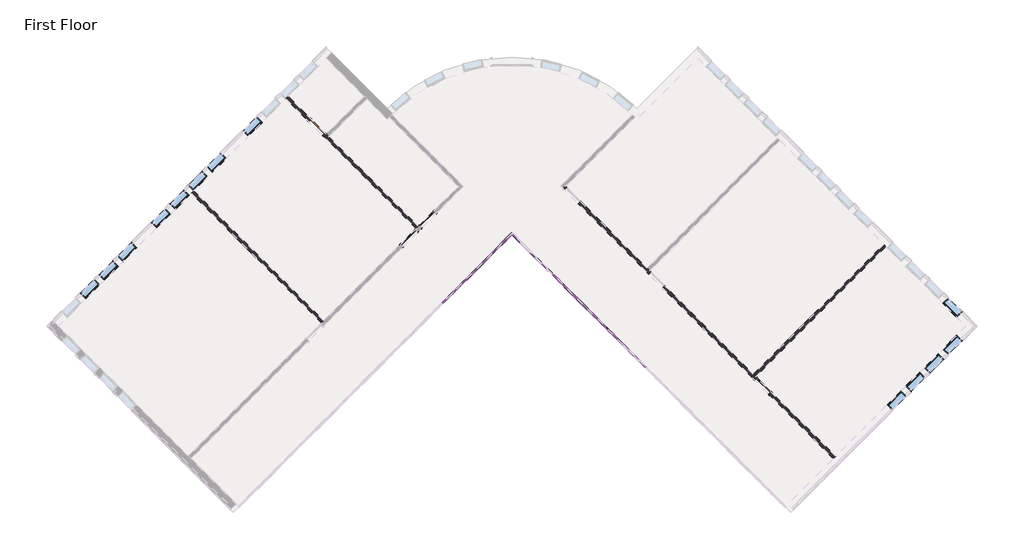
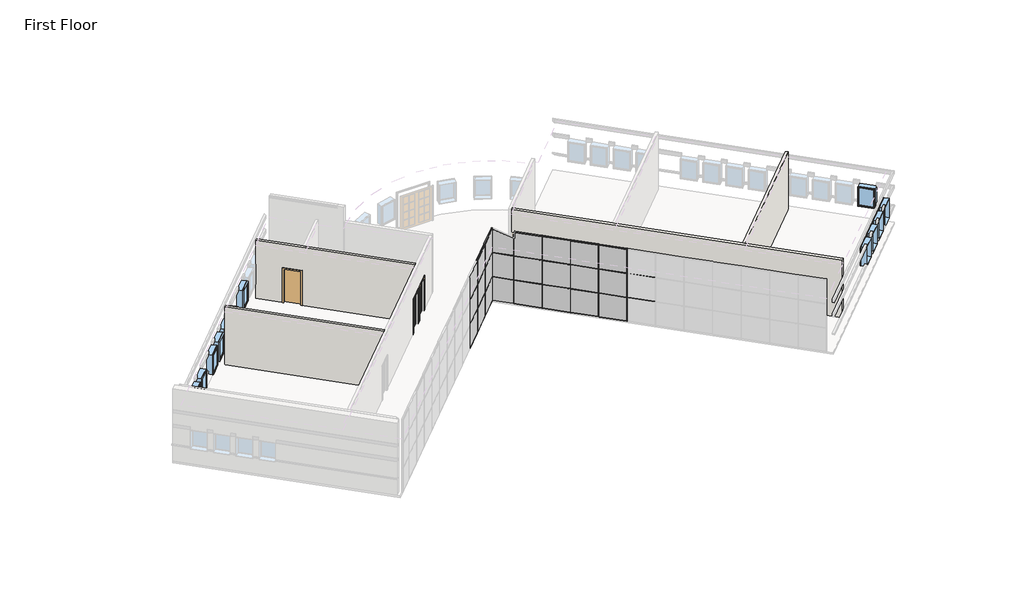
# One storey, part 3 of 5: 46 members, 24 plates, 13 windows, 4 doors, 4 walls.
"""IFC4 building model written with IfcOpenShell, lengths in millimetres."""

from ifc_helpers import new_model, si_unit, origin, origin_with_axes, place, context, project, spatial, polyline, outline, extrude, faceted_brep, transform, mapped, element, save
from components import door_f9494b7c, door_b81abb0e, door_5f5b55da, member_6121af53, member_155beb68, member_f5090587, member_42be4715, member_b8a5b5c0, member_a3731390, member_b87a50da, system_panel_glazed_f8555db4, system_panel_glazed_da345f4e, system_panel_glazed_d4009c89, system_panel_glazed_f1e4c5b0, system_panel_glazed_b4114ee2, system_panel_glazed_dc791129, system_panel_solid_99f695d0, system_panel_solid_2f1037e2, system_panel_solid_f673cd79, system_panel_solid_3576f13f, window_15c49d37, window_0e2fc6ce

model = new_model("IFC4")

# Units and contexts
model_context = context("Model", 3, world=origin())
ifc_project = project(units=[si_unit("LENGTHUNIT", "METRE", prefix="MILLI")], contexts=[model_context])

# Site, building, storey
site = spatial("IfcSite", under=ifc_project)
building = spatial("IfcBuilding", under=site)
storey = spatial("IfcBuildingStorey", under=building, Name="First Floor", Elevation=0.0)

# Doors
placement = place(None, origin())
door_shape = door_f9494b7c(model_context)
element("IfcDoor", 1, ObjectType="Single-Flush : 36\" x 84\"", at=placement, inside=storey, context=model_context, shape_type="MappedRepresentation", body=[
    mapped(door_shape, transform((-11920.1265343, 7875.9588464, 0.0), x_axis=(0.7071067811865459, -0.7071067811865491, 0.0), y_axis=(0.7071067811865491, 0.7071067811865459, 0.0), z_axis=(0.0, 0.0, 1.0))),
])
door_2_shape = door_b81abb0e(model_context)
element("IfcDoor", 2, ObjectType="Single-Glass 1 : 36\" x 84\"", at=placement, inside=storey, context=model_context, shape_type="MappedRepresentation", body=[
    mapped(door_2_shape, transform((-7643.2795567, 2737.0072811, 0.0), x_axis=(0.7071067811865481, 0.7071067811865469, 0.0), y_axis=(-0.7071067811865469, 0.7071067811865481, 0.0), z_axis=(0.0, 0.0, 1.0))),
])
door_3_shape = door_5f5b55da(model_context)
element("IfcDoor", 3, ObjectType="Single-Glass 1 : 36\" x 84\"", at=placement, inside=storey, context=model_context, shape_type="MappedRepresentation", body=[
    mapped(door_3_shape, transform((-6781.1749691, 3599.1118687, 0.0), x_axis=(-0.7071067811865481, -0.7071067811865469, 0.0), y_axis=(0.7071067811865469, -0.7071067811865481, 0.0), z_axis=(0.0, 0.0, 1.0))),
])
element("IfcDoor", 4, ObjectType="Single-Glass 1 : 36\" x 84\"", at=placement, inside=storey, context=model_context, shape_type="MappedRepresentation", body=[
    mapped(door_3_shape, transform((8770.3835686, -4126.1534594, 0.0), x_axis=(-0.7071067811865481, 0.7071067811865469, 0.0), y_axis=(-0.7071067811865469, -0.7071067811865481, 0.0), z_axis=(0.0, 0.0, 1.0))),
])

# Members
member_shape = member_6121af53(model_context)
element("IfcMember", 5, ObjectType="Rectangular Mullion : 1.5\" x 2.5\" Rectangular", at=placement, inside=storey, context=model_context, shape_type="MappedRepresentation", body=[
    mapped(member_shape, transform((-5009.8194492, 810.7423431, 4572.0), x_axis=(0.0, 0.0, 1.0), y_axis=(-0.7071067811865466, 0.7071067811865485, 0.0), z_axis=(-0.7071067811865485, -0.7071067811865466, 0.0))),
])
element("IfcMember", 6, ObjectType="Rectangular Mullion : 1.5\" x 2.5\" Rectangular", at=placement, inside=storey, context=model_context, shape_type="MappedRepresentation", body=[
    mapped(member_shape, transform((1206.7628506, -1122.2577869, 4572.0), x_axis=(0.0, 0.0, 1.0), y_axis=(0.70710678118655, 0.707106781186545, 0.0), z_axis=(-0.707106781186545, 0.70710678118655, 0.0))),
])
element("IfcMember", 7, ObjectType="Rectangular Mullion : 1.5\" x 2.5\" Rectangular", at=placement, inside=storey, context=model_context, shape_type="MappedRepresentation", body=[
    mapped(member_shape, transform((129.1321161, -44.6270524, 4572.0), x_axis=(0.0, 0.0, 1.0), y_axis=(0.7071067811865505, 0.7071067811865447, 0.0), z_axis=(-0.7071067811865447, 0.7071067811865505, 0.0))),
])
element("IfcMember", 8, ObjectType="Rectangular Mullion : 1.5\" x 2.5\" Rectangular", at=placement, inside=storey, context=model_context, shape_type="MappedRepresentation", body=[
    mapped(member_shape, transform((-948.4986184, 1033.0036821, 4572.0), x_axis=(0.0, 0.0, 1.0), y_axis=(0.7071067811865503, 0.7071067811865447, 0.0), z_axis=(-0.7071067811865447, 0.7071067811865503, 0.0))),
])
member_2_shape = member_155beb68(model_context)
element("IfcMember", 9, ObjectType="Rectangular Mullion : 1.5\" x 2.5\" Rectangular", at=placement, inside=storey, context=model_context, shape_type="MappedRepresentation", body=[
    mapped(member_2_shape, transform((-3945.6590988, 1874.9026935, 1524.0), x_axis=(-0.7071067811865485, -0.7071067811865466, 0.0), y_axis=(-0.7071067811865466, 0.7071067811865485, 0.0), z_axis=(0.0, 0.0, -1.0))),
])
element("IfcMember", 10, ObjectType="Rectangular Mullion : 1.5\" x 2.5\" Rectangular", at=placement, inside=storey, context=model_context, shape_type="MappedRepresentation", body=[
    mapped(member_2_shape, transform((-5023.2898334, 797.271959, 1524.0), x_axis=(-0.7071067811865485, -0.7071067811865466, 0.0), y_axis=(-0.7071067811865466, 0.7071067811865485, 0.0), z_axis=(0.0, 0.0, -1.0))),
])
element("IfcMember", 11, ObjectType="Rectangular Mullion : 1.5\" x 2.5\" Rectangular", at=placement, inside=storey, context=model_context, shape_type="MappedRepresentation", body=[
    mapped(member_2_shape, transform((2270.923201, -2186.4181373, 1524.0), x_axis=(-0.7071067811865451, 0.70710678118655, 0.0), y_axis=(0.70710678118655, 0.7071067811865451, 0.0), z_axis=(0.0, 0.0, -1.0))),
])
element("IfcMember", 12, ObjectType="Rectangular Mullion : 1.5\" x 2.5\" Rectangular", at=placement, inside=storey, context=model_context, shape_type="MappedRepresentation", body=[
    mapped(member_2_shape, transform((1193.2924664, -1108.7874027, 1524.0), x_axis=(-0.7071067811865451, 0.70710678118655, 0.0), y_axis=(0.70710678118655, 0.7071067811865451, 0.0), z_axis=(0.0, 0.0, -1.0))),
])
element("IfcMember", 13, ObjectType="Rectangular Mullion : 1.5\" x 2.5\" Rectangular", at=placement, inside=storey, context=model_context, shape_type="MappedRepresentation", body=[
    mapped(member_2_shape, transform((115.6617319, -31.1566682, 1524.0), x_axis=(-0.7071067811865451, 0.70710678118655, 0.0), y_axis=(0.70710678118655, 0.7071067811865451, 0.0), z_axis=(0.0, 0.0, -1.0))),
])
element("IfcMember", 14, ObjectType="Rectangular Mullion : 1.5\" x 2.5\" Rectangular", at=placement, inside=storey, context=model_context, shape_type="MappedRepresentation", body=[
    mapped(member_2_shape, transform((-961.9690026, 1046.4740663, 1524.0), x_axis=(-0.7071067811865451, 0.70710678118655, 0.0), y_axis=(0.70710678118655, 0.7071067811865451, 0.0), z_axis=(0.0, 0.0, -1.0))),
])
element("IfcMember", 15, ObjectType="Rectangular Mullion : 1.5\" x 2.5\" Rectangular", at=placement, inside=storey, context=model_context, shape_type="MappedRepresentation", body=[
    mapped(member_2_shape, transform((-3945.6590988, 1874.9026935, 3048.0), x_axis=(-0.7071067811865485, -0.7071067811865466, 0.0), y_axis=(-0.7071067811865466, 0.7071067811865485, 0.0), z_axis=(0.0, 0.0, -1.0))),
])
element("IfcMember", 16, ObjectType="Rectangular Mullion : 1.5\" x 2.5\" Rectangular", at=placement, inside=storey, context=model_context, shape_type="MappedRepresentation", body=[
    mapped(member_2_shape, transform((-5023.2898334, 797.271959, 3048.0), x_axis=(-0.7071067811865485, -0.7071067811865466, 0.0), y_axis=(-0.7071067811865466, 0.7071067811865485, 0.0), z_axis=(0.0, 0.0, -1.0))),
])
element("IfcMember", 17, ObjectType="Rectangular Mullion : 1.5\" x 2.5\" Rectangular", at=placement, inside=storey, context=model_context, shape_type="MappedRepresentation", body=[
    mapped(member_2_shape, transform((2270.923201, -2186.4181373, 3048.0), x_axis=(-0.7071067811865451, 0.70710678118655, 0.0), y_axis=(0.70710678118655, 0.7071067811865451, 0.0), z_axis=(0.0, 0.0, -1.0))),
])
element("IfcMember", 18, ObjectType="Rectangular Mullion : 1.5\" x 2.5\" Rectangular", at=placement, inside=storey, context=model_context, shape_type="MappedRepresentation", body=[
    mapped(member_2_shape, transform((1193.2924664, -1108.7874027, 3048.0), x_axis=(-0.7071067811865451, 0.70710678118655, 0.0), y_axis=(0.70710678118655, 0.7071067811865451, 0.0), z_axis=(0.0, 0.0, -1.0))),
])
element("IfcMember", 19, ObjectType="Rectangular Mullion : 1.5\" x 2.5\" Rectangular", at=placement, inside=storey, context=model_context, shape_type="MappedRepresentation", body=[
    mapped(member_2_shape, transform((115.6617319, -31.1566682, 3048.0), x_axis=(-0.7071067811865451, 0.70710678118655, 0.0), y_axis=(0.70710678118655, 0.7071067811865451, 0.0), z_axis=(0.0, 0.0, -1.0))),
])
element("IfcMember", 20, ObjectType="Rectangular Mullion : 1.5\" x 2.5\" Rectangular", at=placement, inside=storey, context=model_context, shape_type="MappedRepresentation", body=[
    mapped(member_2_shape, transform((-961.9690026, 1046.4740663, 3048.0), x_axis=(-0.7071067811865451, 0.70710678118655, 0.0), y_axis=(0.70710678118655, 0.7071067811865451, 0.0), z_axis=(0.0, 0.0, -1.0))),
])
element("IfcMember", 21, ObjectType="Rectangular Mullion : 1.5\" x 2.5\" Rectangular", at=placement, inside=storey, context=model_context, shape_type="MappedRepresentation", body=[
    mapped(member_2_shape, transform((-3945.6590988, 1874.9026935, 0.0), x_axis=(-0.7071067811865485, -0.7071067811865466, 0.0), y_axis=(-0.7071067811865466, 0.7071067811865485, 0.0), z_axis=(0.0, 0.0, -1.0))),
])
element("IfcMember", 22, ObjectType="Rectangular Mullion : 1.5\" x 2.5\" Rectangular", at=placement, inside=storey, context=model_context, shape_type="MappedRepresentation", body=[
    mapped(member_2_shape, transform((-5023.2898334, 797.271959, 0.0), x_axis=(-0.7071067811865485, -0.7071067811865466, 0.0), y_axis=(-0.7071067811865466, 0.7071067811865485, 0.0), z_axis=(0.0, 0.0, -1.0))),
])
element("IfcMember", 23, ObjectType="Rectangular Mullion : 1.5\" x 2.5\" Rectangular", at=placement, inside=storey, context=model_context, shape_type="MappedRepresentation", body=[
    mapped(member_2_shape, transform((-961.9690026, 1046.4740663, 0.0), x_axis=(-0.7071067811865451, 0.70710678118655, 0.0), y_axis=(0.70710678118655, 0.7071067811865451, 0.0), z_axis=(0.0, 0.0, -1.0))),
])
element("IfcMember", 24, ObjectType="Rectangular Mullion : 1.5\" x 2.5\" Rectangular", at=placement, inside=storey, context=model_context, shape_type="MappedRepresentation", body=[
    mapped(member_2_shape, transform((115.6617319, -31.1566682, 0.0), x_axis=(-0.7071067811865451, 0.70710678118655, 0.0), y_axis=(0.70710678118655, 0.7071067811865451, 0.0), z_axis=(0.0, 0.0, -1.0))),
])
element("IfcMember", 25, ObjectType="Rectangular Mullion : 1.5\" x 2.5\" Rectangular", at=placement, inside=storey, context=model_context, shape_type="MappedRepresentation", body=[
    mapped(member_2_shape, transform((1193.2924664, -1108.7874027, 0.0), x_axis=(-0.7071067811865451, 0.70710678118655, 0.0), y_axis=(0.70710678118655, 0.7071067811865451, 0.0), z_axis=(0.0, 0.0, -1.0))),
])
element("IfcMember", 26, ObjectType="Rectangular Mullion : 1.5\" x 2.5\" Rectangular", at=placement, inside=storey, context=model_context, shape_type="MappedRepresentation", body=[
    mapped(member_2_shape, transform((2270.923201, -2186.4181373, 0.0), x_axis=(-0.7071067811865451, 0.70710678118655, 0.0), y_axis=(0.70710678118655, 0.7071067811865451, 0.0), z_axis=(0.0, 0.0, -1.0))),
])
member_3_shape = member_f5090587(model_context)
element("IfcMember", 27, ObjectType="Rectangular Mullion : 1.5\" x 2.5\" Rectangular", at=placement, inside=storey, context=model_context, shape_type="MappedRepresentation", body=[
    mapped(member_3_shape, transform((-3932.1887147, 1888.3730777, 3048.0), x_axis=(0.0, 0.0, 1.0), y_axis=(-0.7071067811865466, 0.7071067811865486, 0.0), z_axis=(-0.7071067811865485, -0.7071067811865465, 0.0))),
])
element("IfcMember", 28, ObjectType="Rectangular Mullion : 1.5\" x 2.5\" Rectangular", at=placement, inside=storey, context=model_context, shape_type="MappedRepresentation", body=[
    mapped(member_3_shape, transform((-3932.1887147, 1888.3730777, 1524.0), x_axis=(0.0, 0.0, 1.0), y_axis=(-0.7071067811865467, 0.7071067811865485, 0.0), z_axis=(-0.7071067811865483, -0.7071067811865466, 0.0))),
])
member_4_shape = member_42be4715(model_context)
element("IfcMember", 29, ObjectType="Rectangular Mullion : 1.5\" x 2.5\" Rectangular", at=placement, inside=storey, context=model_context, shape_type="MappedRepresentation", body=[
    mapped(member_4_shape, transform((-5009.8194492, 810.7423431, 3048.0), x_axis=(0.0, 0.0, 1.0), y_axis=(-0.7071067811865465, 0.7071067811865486, 0.0), z_axis=(-0.7071067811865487, -0.7071067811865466, 0.0))),
])
element("IfcMember", 30, ObjectType="Rectangular Mullion : 1.5\" x 2.5\" Rectangular", at=placement, inside=storey, context=model_context, shape_type="MappedRepresentation", body=[
    mapped(member_4_shape, transform((-5009.8194492, 810.7423431, 1524.0), x_axis=(0.0, 0.0, 1.0), y_axis=(-0.7071067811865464, 0.7071067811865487, 0.0), z_axis=(-0.7071067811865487, -0.7071067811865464, 0.0))),
])
element("IfcMember", 31, ObjectType="Rectangular Mullion : 1.5\" x 2.5\" Rectangular", at=placement, inside=storey, context=model_context, shape_type="MappedRepresentation", body=[
    mapped(member_4_shape, transform((-948.4986184, 1033.0036821, 3048.0), x_axis=(0.0, 0.0, 1.0), y_axis=(0.7071067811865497, 0.7071067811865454, 0.0), z_axis=(-0.7071067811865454, 0.7071067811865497, 0.0))),
])
element("IfcMember", 32, ObjectType="Rectangular Mullion : 1.5\" x 2.5\" Rectangular", at=placement, inside=storey, context=model_context, shape_type="MappedRepresentation", body=[
    mapped(member_4_shape, transform((129.1321161, -44.6270524, 3048.0), x_axis=(0.0, 0.0, 1.0), y_axis=(0.7071067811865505, 0.7071067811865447, 0.0), z_axis=(-0.7071067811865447, 0.7071067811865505, 0.0))),
])
element("IfcMember", 33, ObjectType="Rectangular Mullion : 1.5\" x 2.5\" Rectangular", at=placement, inside=storey, context=model_context, shape_type="MappedRepresentation", body=[
    mapped(member_4_shape, transform((1206.7628506, -1122.2577869, 3048.0), x_axis=(0.0, 0.0, 1.0), y_axis=(0.70710678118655, 0.707106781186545, 0.0), z_axis=(-0.707106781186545, 0.70710678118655, 0.0))),
])
element("IfcMember", 34, ObjectType="Rectangular Mullion : 1.5\" x 2.5\" Rectangular", at=placement, inside=storey, context=model_context, shape_type="MappedRepresentation", body=[
    mapped(member_4_shape, transform((2284.3935852, -2199.8885214, 3048.0), x_axis=(0.0, 0.0, 1.0), y_axis=(0.7071067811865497, 0.7071067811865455, 0.0), z_axis=(-0.7071067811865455, 0.7071067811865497, 0.0))),
])
element("IfcMember", 35, ObjectType="Rectangular Mullion : 1.5\" x 2.5\" Rectangular", at=placement, inside=storey, context=model_context, shape_type="MappedRepresentation", body=[
    mapped(member_4_shape, transform((-948.4986184, 1033.0036821, 1524.0), x_axis=(0.0, 0.0, 1.0), y_axis=(0.7071067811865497, 0.7071067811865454, 0.0), z_axis=(-0.7071067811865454, 0.7071067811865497, 0.0))),
])
element("IfcMember", 36, ObjectType="Rectangular Mullion : 1.5\" x 2.5\" Rectangular", at=placement, inside=storey, context=model_context, shape_type="MappedRepresentation", body=[
    mapped(member_4_shape, transform((129.1321161, -44.6270524, 1524.0), x_axis=(0.0, 0.0, 1.0), y_axis=(0.7071067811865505, 0.7071067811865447, 0.0), z_axis=(-0.7071067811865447, 0.7071067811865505, 0.0))),
])
element("IfcMember", 37, ObjectType="Rectangular Mullion : 1.5\" x 2.5\" Rectangular", at=placement, inside=storey, context=model_context, shape_type="MappedRepresentation", body=[
    mapped(member_4_shape, transform((1206.7628506, -1122.2577869, 1524.0), x_axis=(0.0, 0.0, 1.0), y_axis=(0.7071067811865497, 0.7071067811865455, 0.0), z_axis=(-0.7071067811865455, 0.7071067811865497, 0.0))),
])
element("IfcMember", 38, ObjectType="Rectangular Mullion : 1.5\" x 2.5\" Rectangular", at=placement, inside=storey, context=model_context, shape_type="MappedRepresentation", body=[
    mapped(member_4_shape, transform((2284.3935852, -2199.8885214, 1524.0), x_axis=(0.0, 0.0, 1.0), y_axis=(0.70710678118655, 0.707106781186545, 0.0), z_axis=(-0.707106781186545, 0.70710678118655, 0.0))),
])
member_5_shape = member_b8a5b5c0(model_context)
element("IfcMember", 39, ObjectType="Rectangular Mullion : 1.5\" x 2.5\" Rectangular", at=placement, inside=storey, context=model_context, shape_type="MappedRepresentation", body=[
    mapped(member_5_shape, transform((-2894.9691327, 2925.5926597, 0.0), x_axis=(0.0, 0.0, -1.0), y_axis=(-0.7071067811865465, 0.7071067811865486, 0.0), z_axis=(0.7071067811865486, 0.7071067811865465, 0.0))),
])
element("IfcMember", 40, ObjectType="Rectangular Mullion : 1.5\" x 2.5\" Rectangular", at=placement, inside=storey, context=model_context, shape_type="MappedRepresentation", body=[
    mapped(member_shape, transform((-3959.129483, 1861.4323093, 0.0), x_axis=(0.0, 0.0, -1.0), y_axis=(-0.7071067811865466, 0.7071067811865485, 0.0), z_axis=(0.7071067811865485, 0.7071067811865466, 0.0))),
])
element("IfcMember", 41, ObjectType="Rectangular Mullion : 1.5\" x 2.5\" Rectangular", at=placement, inside=storey, context=model_context, shape_type="MappedRepresentation", body=[
    mapped(member_shape, transform((-5036.7602175, 783.8015748, 0.0), x_axis=(0.0, 0.0, -1.0), y_axis=(-0.7071067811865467, 0.7071067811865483, 0.0), z_axis=(0.7071067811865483, 0.7071067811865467, 0.0))),
])
element("IfcMember", 42, ObjectType="Rectangular Mullion : 1.5\" x 2.5\" Rectangular", at=placement, inside=storey, context=model_context, shape_type="MappedRepresentation", body=[
    mapped(member_shape, transform((-975.4393868, 1059.9444505, 0.0), x_axis=(0.0, 0.0, -1.0), y_axis=(0.707106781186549, 0.7071067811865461, 0.0), z_axis=(0.707106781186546, -0.7071067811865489, 0.0))),
])
element("IfcMember", 43, ObjectType="Rectangular Mullion : 1.5\" x 2.5\" Rectangular", at=placement, inside=storey, context=model_context, shape_type="MappedRepresentation", body=[
    mapped(member_shape, transform((102.1913477, -17.686284, 0.0), x_axis=(0.0, 0.0, -1.0), y_axis=(0.7071067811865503, 0.7071067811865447, 0.0), z_axis=(0.7071067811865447, -0.7071067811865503, 0.0))),
])
element("IfcMember", 44, ObjectType="Rectangular Mullion : 1.5\" x 2.5\" Rectangular", at=placement, inside=storey, context=model_context, shape_type="MappedRepresentation", body=[
    mapped(member_shape, transform((1179.8220823, -1095.3170186, 0.0), x_axis=(0.0, 0.0, -1.0), y_axis=(0.7071067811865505, 0.7071067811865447, 0.0), z_axis=(0.7071067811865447, -0.7071067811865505, 0.0))),
])
element("IfcMember", 45, ObjectType="Rectangular Mullion : 1.5\" x 2.5\" Rectangular", at=placement, inside=storey, context=model_context, shape_type="MappedRepresentation", body=[
    mapped(member_shape, transform((2257.4528168, -2172.9477531, 0.0), x_axis=(0.0, 0.0, -1.0), y_axis=(0.7071067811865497, 0.7071067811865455, 0.0), z_axis=(0.7071067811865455, -0.7071067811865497, 0.0))),
])
element("IfcMember", 46, ObjectType="Rectangular Mullion : 1.5\" x 2.5\" Rectangular", at=placement, inside=storey, context=model_context, shape_type="MappedRepresentation", body=[
    mapped(member_5_shape, transform((-3932.1887147, 1888.3730777, 4572.0), x_axis=(0.0, 0.0, 1.0), y_axis=(-0.7071067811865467, 0.7071067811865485, 0.0), z_axis=(-0.7071067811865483, -0.7071067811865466, 0.0))),
])
member_6_shape = member_a3731390(model_context)
element("IfcMember", 47, ObjectType="Rectangular Mullion : 1.5\" x 2.5\" Rectangular", at=placement, inside=storey, context=model_context, shape_type="MappedRepresentation", body=[
    mapped(member_6_shape, transform((-2841.0875959, 2925.5926597, 3048.0), x_axis=(0.0, 0.0, 1.0), y_axis=(0.7071067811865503, 0.7071067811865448, 0.0), z_axis=(-0.7071067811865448, 0.7071067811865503, 0.0))),
])
member_7_shape = member_b87a50da(model_context)
element("IfcMember", 48, ObjectType="Rectangular Mullion : 1.5\" x 2.5\" Rectangular", at=placement, inside=storey, context=model_context, shape_type="MappedRepresentation", body=[
    mapped(member_7_shape, transform((-2868.0283643, 2952.533428, 1524.0), x_axis=(0.7071067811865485, 0.7071067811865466, 0.0), y_axis=(-0.7071067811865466, 0.7071067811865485, 0.0), z_axis=(0.0, 0.0, 1.0))),
])
element("IfcMember", 49, ObjectType="Rectangular Mullion : 1.5\" x 2.5\" Rectangular", at=placement, inside=storey, context=model_context, shape_type="MappedRepresentation", body=[
    mapped(member_7_shape, transform((-2868.0283643, 2952.533428, 3048.0), x_axis=(0.7071067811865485, 0.7071067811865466, 0.0), y_axis=(-0.7071067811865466, 0.7071067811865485, 0.0), z_axis=(0.0, 0.0, 1.0))),
])
element("IfcMember", 50, ObjectType="Rectangular Mullion : 1.5\" x 2.5\" Rectangular", at=placement, inside=storey, context=model_context, shape_type="MappedRepresentation", body=[
    mapped(member_7_shape, transform((-2868.0283643, 2952.533428, 4572.0), x_axis=(0.7071067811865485, 0.7071067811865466, 0.0), y_axis=(-0.7071067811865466, 0.7071067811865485, 0.0), z_axis=(0.0, 0.0, 1.0))),
])

# Plates
system_panel_glazed_shape = system_panel_glazed_f8555db4(model_context)
element("IfcPlate", 51, ObjectType="System Panel : Glazed", at=placement, inside=storey, context=model_context, shape_type="MappedRepresentation", body=[
    mapped(system_panel_glazed_shape, transform((-3413.5789237, 2406.9828687, 38.1), x_axis=(-0.7071067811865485, -0.7071067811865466, 0.0), y_axis=(0.7071067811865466, -0.7071067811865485, 0.0), z_axis=(0.0, 0.0, 1.0))),
])
system_panel_glazed_2_shape = system_panel_glazed_da345f4e(model_context)
element("IfcPlate", 52, ObjectType="System Panel : Glazed", at=placement, inside=storey, context=model_context, shape_type="MappedRepresentation", body=[
    mapped(system_panel_glazed_2_shape, transform((1732.1078337, -1647.60277, 38.1), x_axis=(-0.7071067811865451, 0.70710678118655, 0.0), y_axis=(-0.70710678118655, -0.7071067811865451, 0.0), z_axis=(0.0, 0.0, 1.0))),
])
element("IfcPlate", 53, ObjectType="System Panel : Glazed", at=placement, inside=storey, context=model_context, shape_type="MappedRepresentation", body=[
    mapped(system_panel_glazed_2_shape, transform((654.4770992, -569.9720355, 38.1), x_axis=(-0.7071067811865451, 0.70710678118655, 0.0), y_axis=(-0.70710678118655, -0.7071067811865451, 0.0), z_axis=(0.0, 0.0, 1.0))),
])
element("IfcPlate", 54, ObjectType="System Panel : Glazed", at=placement, inside=storey, context=model_context, shape_type="MappedRepresentation", body=[
    mapped(system_panel_glazed_2_shape, transform((-423.1536353, 507.6586991, 38.1), x_axis=(-0.7071067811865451, 0.70710678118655, 0.0), y_axis=(-0.70710678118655, -0.7071067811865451, 0.0), z_axis=(0.0, 0.0, 1.0))),
])
element("IfcPlate", 55, ObjectType="System Panel : Glazed", at=placement, inside=storey, context=model_context, shape_type="MappedRepresentation", body=[
    mapped(system_panel_glazed_2_shape, transform((-4484.4744661, 1336.0873262, 38.1), x_axis=(-0.7071067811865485, -0.7071067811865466, 0.0), y_axis=(0.7071067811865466, -0.7071067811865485, 0.0), z_axis=(0.0, 0.0, 1.0))),
])
element("IfcPlate", 56, ObjectType="System Panel : Glazed", at=placement, inside=storey, context=model_context, shape_type="MappedRepresentation", body=[
    mapped(system_panel_glazed_2_shape, transform((-5562.1052006, 258.4565917, 38.1), x_axis=(-0.7071067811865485, -0.7071067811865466, 0.0), y_axis=(0.7071067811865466, -0.7071067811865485, 0.0), z_axis=(0.0, 0.0, 1.0))),
])
element("IfcPlate", 57, ObjectType="System Panel : Glazed", at=placement, inside=storey, context=model_context, shape_type="MappedRepresentation", body=[
    mapped(system_panel_glazed_2_shape, transform((-1500.7843699, 1585.2894336, 38.1), x_axis=(-0.7071067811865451, 0.70710678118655, 0.0), y_axis=(-0.70710678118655, -0.7071067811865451, 0.0), z_axis=(0.0, 0.0, 1.0))),
])
system_panel_glazed_3_shape = system_panel_glazed_d4009c89(model_context)
element("IfcPlate", 58, ObjectType="System Panel : Glazed", at=placement, inside=storey, context=model_context, shape_type="MappedRepresentation", body=[
    mapped(system_panel_glazed_3_shape, transform((-3413.5789237, 2406.9828687, 1543.05), x_axis=(-0.7071067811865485, -0.7071067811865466, 0.0), y_axis=(0.7071067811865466, -0.7071067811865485, 0.0), z_axis=(0.0, 0.0, 1.0))),
])
system_panel_glazed_4_shape = system_panel_glazed_f1e4c5b0(model_context)
element("IfcPlate", 59, ObjectType="System Panel : Glazed", at=placement, inside=storey, context=model_context, shape_type="MappedRepresentation", body=[
    mapped(system_panel_glazed_4_shape, transform((1732.1078337, -1647.60277, 1543.05), x_axis=(-0.7071067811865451, 0.70710678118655, 0.0), y_axis=(-0.70710678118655, -0.7071067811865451, 0.0), z_axis=(0.0, 0.0, 1.0))),
])
element("IfcPlate", 60, ObjectType="System Panel : Glazed", at=placement, inside=storey, context=model_context, shape_type="MappedRepresentation", body=[
    mapped(system_panel_glazed_4_shape, transform((654.4770992, -569.9720355, 1543.05), x_axis=(-0.7071067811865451, 0.70710678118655, 0.0), y_axis=(-0.70710678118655, -0.7071067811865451, 0.0), z_axis=(0.0, 0.0, 1.0))),
])
element("IfcPlate", 61, ObjectType="System Panel : Glazed", at=placement, inside=storey, context=model_context, shape_type="MappedRepresentation", body=[
    mapped(system_panel_glazed_4_shape, transform((-423.1536353, 507.6586991, 1543.05), x_axis=(-0.7071067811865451, 0.70710678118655, 0.0), y_axis=(-0.70710678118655, -0.7071067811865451, 0.0), z_axis=(0.0, 0.0, 1.0))),
])
element("IfcPlate", 62, ObjectType="System Panel : Glazed", at=placement, inside=storey, context=model_context, shape_type="MappedRepresentation", body=[
    mapped(system_panel_glazed_4_shape, transform((-4484.4744661, 1336.0873262, 1543.05), x_axis=(-0.7071067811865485, -0.7071067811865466, 0.0), y_axis=(0.7071067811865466, -0.7071067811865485, 0.0), z_axis=(0.0, 0.0, 1.0))),
])
element("IfcPlate", 63, ObjectType="System Panel : Glazed", at=placement, inside=storey, context=model_context, shape_type="MappedRepresentation", body=[
    mapped(system_panel_glazed_4_shape, transform((-5562.1052006, 258.4565917, 1543.05), x_axis=(-0.7071067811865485, -0.7071067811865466, 0.0), y_axis=(0.7071067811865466, -0.7071067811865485, 0.0), z_axis=(0.0, 0.0, 1.0))),
])
element("IfcPlate", 64, ObjectType="System Panel : Glazed", at=placement, inside=storey, context=model_context, shape_type="MappedRepresentation", body=[
    mapped(system_panel_glazed_4_shape, transform((-1500.7843699, 1585.2894336, 1543.05), x_axis=(-0.7071067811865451, 0.70710678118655, 0.0), y_axis=(-0.70710678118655, -0.7071067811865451, 0.0), z_axis=(0.0, 0.0, 1.0))),
])
system_panel_glazed_5_shape = system_panel_glazed_b4114ee2(model_context)
element("IfcPlate", 65, ObjectType="System Panel : Glazed", at=placement, inside=storey, context=model_context, shape_type="MappedRepresentation", body=[
    mapped(system_panel_glazed_5_shape, transform((-2447.0788586, 2531.5839223, 38.1), x_axis=(-0.7071067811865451, 0.70710678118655, 0.0), y_axis=(-0.70710678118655, -0.7071067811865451, 0.0), z_axis=(0.0, 0.0, 1.0))),
])
system_panel_glazed_6_shape = system_panel_glazed_dc791129(model_context)
element("IfcPlate", 66, ObjectType="System Panel : Glazed", at=placement, inside=storey, context=model_context, shape_type="MappedRepresentation", body=[
    mapped(system_panel_glazed_6_shape, transform((-2447.0788586, 2531.5839223, 1543.05), x_axis=(-0.7071067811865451, 0.70710678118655, 0.0), y_axis=(-0.70710678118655, -0.7071067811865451, 0.0), z_axis=(0.0, 0.0, 1.0))),
])
system_panel_solid_shape = system_panel_solid_99f695d0(model_context)
element("IfcPlate", 67, ObjectType="System Panel : Solid", at=placement, inside=storey, context=model_context, shape_type="MappedRepresentation", body=[
    mapped(system_panel_solid_shape, transform((-3413.5789237, 2406.9828687, 3067.05), x_axis=(-0.7071067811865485, -0.7071067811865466, 0.0), y_axis=(0.7071067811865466, -0.7071067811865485, 0.0), z_axis=(0.0, 0.0, 1.0))),
])
system_panel_solid_2_shape = system_panel_solid_2f1037e2(model_context)
element("IfcPlate", 68, ObjectType="System Panel : Solid", at=placement, inside=storey, context=model_context, shape_type="MappedRepresentation", body=[
    mapped(system_panel_solid_2_shape, transform((1732.1078337, -1647.60277, 3067.05), x_axis=(-0.7071067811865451, 0.70710678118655, 0.0), y_axis=(-0.70710678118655, -0.7071067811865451, 0.0), z_axis=(0.0, 0.0, 1.0))),
])
element("IfcPlate", 69, ObjectType="System Panel : Solid", at=placement, inside=storey, context=model_context, shape_type="MappedRepresentation", body=[
    mapped(system_panel_solid_2_shape, transform((654.4770992, -569.9720355, 3067.05), x_axis=(-0.7071067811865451, 0.70710678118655, 0.0), y_axis=(-0.70710678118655, -0.7071067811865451, 0.0), z_axis=(0.0, 0.0, 1.0))),
])
element("IfcPlate", 70, ObjectType="System Panel : Solid", at=placement, inside=storey, context=model_context, shape_type="MappedRepresentation", body=[
    mapped(system_panel_solid_2_shape, transform((-423.1536353, 507.6586991, 3067.05), x_axis=(-0.7071067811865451, 0.70710678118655, 0.0), y_axis=(-0.70710678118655, -0.7071067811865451, 0.0), z_axis=(0.0, 0.0, 1.0))),
])
element("IfcPlate", 71, ObjectType="System Panel : Solid", at=placement, inside=storey, context=model_context, shape_type="MappedRepresentation", body=[
    mapped(system_panel_solid_2_shape, transform((-4484.4744661, 1336.0873262, 3067.05), x_axis=(-0.7071067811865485, -0.7071067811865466, 0.0), y_axis=(0.7071067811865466, -0.7071067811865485, 0.0), z_axis=(0.0, 0.0, 1.0))),
])
element("IfcPlate", 72, ObjectType="System Panel : Solid", at=placement, inside=storey, context=model_context, shape_type="MappedRepresentation", body=[
    mapped(system_panel_solid_2_shape, transform((-5562.1052006, 258.4565917, 3067.05), x_axis=(-0.7071067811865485, -0.7071067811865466, 0.0), y_axis=(0.7071067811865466, -0.7071067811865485, 0.0), z_axis=(0.0, 0.0, 1.0))),
])
system_panel_solid_3_shape = system_panel_solid_f673cd79(model_context)
element("IfcPlate", 73, ObjectType="System Panel : Solid", at=placement, inside=storey, context=model_context, shape_type="MappedRepresentation", body=[
    mapped(system_panel_solid_3_shape, transform((-1500.7843699, 1585.2894336, 3067.05), x_axis=(-0.7071067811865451, 0.70710678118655, 0.0), y_axis=(-0.70710678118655, -0.7071067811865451, 0.0), z_axis=(0.0, 0.0, 1.0))),
])
system_panel_solid_4_shape = system_panel_solid_3576f13f(model_context)
element("IfcPlate", 74, ObjectType="System Panel : Solid", at=placement, inside=storey, context=model_context, shape_type="MappedRepresentation", body=[
    mapped(system_panel_solid_4_shape, transform((-2447.0788586, 2531.5839223, 3067.05), x_axis=(-0.7071067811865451, 0.70710678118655, 0.0), y_axis=(-0.70710678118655, -0.7071067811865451, 0.0), z_axis=(0.0, 0.0, 1.0))),
])

# Walls
element("IfcWall", 75, ObjectType="Interior - 6 1/8\" Partition (2-hr)", at=placement, inside=storey, context=model_context, shape_type="Brep", body=[
    faceted_brep([(-7322.2354004, 3168.0595749, 0.0), (-11651.8413827, 7497.6655573, 0.0), (-11541.8332452, 7607.6736948, 0.0), (-11489.0742405, 7554.9146901, 0.0), (-11379.066103, 7444.9065526, 0.0), (-7212.2272629, 3278.0677124, 0.0), (-12298.4198234, 8144.243998, 0.0), (-13359.2125777, 9205.0367523, 0.0), (-13249.2044403, 9315.0448898, 0.0), (-12188.411686, 8254.2521355, 0.0), (-7212.2272629, 3278.0677124, 3657.6), (-11379.066103, 7444.9065526, 3657.6), (-11489.0742405, 7554.9146901, 3657.6), (-13249.2044403, 9315.0448898, 3657.6), (-13359.2125777, 9205.0367523, 3657.6), (-7322.2354004, 3168.0595749, 3657.6), (-11541.8332452, 7607.6736948, 2133.6), (-12188.411686, 8254.2521355, 2133.6), (-11651.8413827, 7497.6655573, 2133.6), (-12298.4198234, 8144.243998, 2133.6)], [[[0, 1, 2, 3, 4, 5]], [[6, 7, 8, 9]], [[10, 11, 12, 13, 14, 15]], [[5, 4, 3, 2, 16, 17, 9, 8, 13, 12, 11, 10]], [[18, 1, 0, 15, 14, 7, 6, 19]], [[13, 8, 7, 14]], [[5, 10, 15, 0]], [[16, 2, 1, 18]], [[17, 16, 18, 19]], [[9, 17, 19, 6]]]),
])
element("IfcWall", 76, ObjectType="Interior - 6 1/8\" Partition (2-hr)", at=placement, inside=storey, context=model_context, shape_type="SweptSolid", body=[
    extrude(outline(polyline([(-17633.6967091, 4930.552621), (-11596.7195317, -1106.4245564), (-11706.7276692, -1216.4326939), (-17743.7048466, 4820.5444835), (-17633.6967091, 4930.552621)])), origin_with_axes(), (0.0, 0.0, 1.0), 3657.6),
])
element("IfcWall", 77, ObjectType="Interior - 6 1/8\" Partition (2-hr)", at=placement, inside=storey, context=model_context, shape_type="Brep", body=[
    faceted_brep([(-387.4681754, 5141.7064221, 0.0), (-334.7091707, 5088.9474174, 0.0), (-444.7173082, 4978.9392799, 0.0), (-497.4763129, 5031.6982846, 0.0), (311.86927, 4442.3689766, 0.0), (3415.9058564, 1338.3323903, 0.0), (3525.9139939, 1228.3242528, 0.0), (3578.6729986, 1175.5652481, 0.0), (3468.6648611, 1065.5571106, 0.0), (201.8611325, 4332.3608392, 0.0), (4225.2514393, 528.9868073, 0.0), (8339.3312748, -3585.0930281, 0.0), (8449.3394123, -3695.1011656, 0.0), (8502.098417, -3747.8601703, 0.0), (8392.0902795, -3857.8683078, 0.0), (4115.2433018, 418.9786699, 0.0), (9148.6768577, -4394.438611, 0.0), (12149.2049342, -7394.9666875, 0.0), (12039.1967967, -7504.974825, 0.0), (9038.6687202, -4504.4467485, 0.0), (12149.2049342, -7394.9666875, 3657.6), (8449.3394123, -3695.1011656, 3657.6), (8339.3312748, -3585.0930281, 3657.6), (3525.9139939, 1228.3242528, 3657.6), (3415.9058564, 1338.3323903, 3657.6), (-387.4681754, 5141.7064221, 3657.6), (-497.4763129, 5031.6982846, 3657.6), (12039.1967967, -7504.974825, 3657.6), (8502.098417, -3747.8601703, 2133.6), (4225.2514393, 528.9868073, 2133.6), (3578.6729986, 1175.5652481, 2133.6), (311.86927, 4442.3689766, 2133.6), (-334.7091707, 5088.9474174, 2133.6), (9148.6768577, -4394.438611, 2133.6), (8392.0902795, -3857.8683078, 2133.6), (9038.6687202, -4504.4467485, 2133.6), (-444.7173082, 4978.9392799, 2133.6), (201.8611325, 4332.3608392, 2133.6), (3468.6648611, 1065.5571106, 2133.6), (4115.2433018, 418.9786699, 2133.6)], [[[0, 1, 2, 3]], [[4, 5, 6, 7, 8, 9]], [[10, 11, 12, 13, 14, 15]], [[16, 17, 18, 19]], [[20, 21, 22, 23, 24, 25, 26, 27]], [[28, 13, 12, 11, 10, 29, 30, 7, 6, 5, 4, 31, 32, 1, 0, 25, 24, 23, 22, 21, 20, 17, 16, 33]], [[15, 14, 34, 35, 19, 18, 27, 26, 3, 2, 36, 37, 9, 8, 38, 39]], [[25, 0, 3, 26]], [[17, 20, 27, 18]], [[36, 2, 1, 32]], [[37, 36, 32, 31]], [[9, 37, 31, 4]], [[38, 8, 7, 30]], [[39, 38, 30, 29]], [[15, 39, 29, 10]], [[34, 14, 13, 28]], [[35, 34, 28, 33]], [[19, 35, 33, 16]]]),
])
element("IfcWall", 78, ObjectType="Interior - 6 1/8\" Partition (2-hr)", at=placement, inside=storey, context=model_context, shape_type="SweptSolid", body=[
    extrude(outline(polyline([(8339.3312748, -3585.0930281), (14376.3084522, 2451.8841493), (14486.3165897, 2341.8760118), (8449.3394123, -3695.1011656), (8339.3312748, -3585.0930281)])), origin_with_axes(), (0.0, 0.0, 1.0), 3657.6),
])

# Windows
window_shape = window_15c49d37(model_context)
element("IfcWindow", 79, ObjectType="Fixed : 36\" x 48\"", at=placement, inside=storey, context=model_context, shape_type="MappedRepresentation", body=[
    mapped(window_shape, transform((-22474.1725406, 339.2788968, 0.0), x_axis=(-0.7071067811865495, -0.7071067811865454, 0.0), y_axis=(0.7071067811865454, -0.7071067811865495, 0.0), z_axis=(0.0, 0.0, 1.0))),
])
element("IfcWindow", 80, ObjectType="Fixed : 36\" x 48\"", at=placement, inside=storey, context=model_context, shape_type="MappedRepresentation", body=[
    mapped(window_shape, transform((-21612.067953, 1201.3834844, 0.0), x_axis=(-0.7071067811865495, -0.7071067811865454, 0.0), y_axis=(0.7071067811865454, -0.7071067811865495, 0.0), z_axis=(0.0, 0.0, 1.0))),
])
element("IfcWindow", 81, ObjectType="Fixed : 36\" x 48\"", at=placement, inside=storey, context=model_context, shape_type="MappedRepresentation", body=[
    mapped(window_shape, transform((-20749.9633654, 2063.488072, 0.0), x_axis=(-0.7071067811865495, -0.7071067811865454, 0.0), y_axis=(0.7071067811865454, -0.7071067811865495, 0.0), z_axis=(0.0, 0.0, 1.0))),
])
element("IfcWindow", 82, ObjectType="Fixed : 36\" x 48\"", at=placement, inside=storey, context=model_context, shape_type="MappedRepresentation", body=[
    mapped(window_shape, transform((-19187.8702245, 3625.5812129, 0.0), x_axis=(-0.7071067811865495, -0.7071067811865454, 0.0), y_axis=(0.7071067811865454, -0.7071067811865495, 0.0), z_axis=(0.0, 0.0, 1.0))),
])
element("IfcWindow", 83, ObjectType="Fixed : 36\" x 48\"", at=placement, inside=storey, context=model_context, shape_type="MappedRepresentation", body=[
    mapped(window_shape, transform((-18325.7656368, 4487.6858006, 0.0), x_axis=(-0.7071067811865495, -0.7071067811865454, 0.0), y_axis=(0.7071067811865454, -0.7071067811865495, 0.0), z_axis=(0.0, 0.0, 1.0))),
])
element("IfcWindow", 84, ObjectType="Fixed : 36\" x 48\"", at=placement, inside=storey, context=model_context, shape_type="MappedRepresentation", body=[
    mapped(window_shape, transform((-17463.6610492, 5349.7903882, 0.0), x_axis=(-0.7071067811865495, -0.7071067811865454, 0.0), y_axis=(0.7071067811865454, -0.7071067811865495, 0.0), z_axis=(0.0, 0.0, 1.0))),
])
element("IfcWindow", 85, ObjectType="Fixed : 36\" x 48\"", at=placement, inside=storey, context=model_context, shape_type="MappedRepresentation", body=[
    mapped(window_shape, transform((-16601.5564616, 6211.8949758, 0.0), x_axis=(-0.7071067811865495, -0.7071067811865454, 0.0), y_axis=(0.7071067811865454, -0.7071067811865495, 0.0), z_axis=(0.0, 0.0, 1.0))),
])
element("IfcWindow", 86, ObjectType="Fixed : 36\" x 48\"", at=placement, inside=storey, context=model_context, shape_type="MappedRepresentation", body=[
    mapped(window_shape, transform((17600.2203996, -2193.1533294, 0.0), x_axis=(0.7071067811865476, 0.7071067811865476, 0.0), y_axis=(-0.7071067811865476, 0.7071067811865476, 0.0), z_axis=(0.0, 0.0, 1.0))),
])
element("IfcWindow", 87, ObjectType="Fixed : 36\" x 48\"", at=placement, inside=storey, context=model_context, shape_type="MappedRepresentation", body=[
    mapped(window_shape, transform((16738.115812, -3055.257917, 0.0), x_axis=(0.7071067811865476, 0.7071067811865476, 0.0), y_axis=(-0.7071067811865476, 0.7071067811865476, 0.0), z_axis=(0.0, 0.0, 1.0))),
])
element("IfcWindow", 88, ObjectType="Fixed : 36\" x 48\"", at=placement, inside=storey, context=model_context, shape_type="MappedRepresentation", body=[
    mapped(window_shape, transform((15876.0112244, -3917.3625046, 0.0), x_axis=(0.7071067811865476, 0.7071067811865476, 0.0), y_axis=(-0.7071067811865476, 0.7071067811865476, 0.0), z_axis=(0.0, 0.0, 1.0))),
])
element("IfcWindow", 89, ObjectType="Fixed : 36\" x 48\"", at=placement, inside=storey, context=model_context, shape_type="MappedRepresentation", body=[
    mapped(window_shape, transform((15013.9066368, -4779.4670922, 0.0), x_axis=(0.7071067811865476, 0.7071067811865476, 0.0), y_axis=(-0.7071067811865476, 0.7071067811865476, 0.0), z_axis=(0.0, 0.0, 1.0))),
])
window_2_shape = window_0e2fc6ce(model_context)
element("IfcWindow", 90, ObjectType="Fixed : 36\" x 48\"", at=placement, inside=storey, context=model_context, shape_type="MappedRepresentation", body=[
    mapped(window_2_shape, transform((-14876.6402977, 7936.8111398, 0.0), x_axis=(0.7071067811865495, 0.7071067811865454, 0.0), y_axis=(-0.7071067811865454, 0.7071067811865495, 0.0), z_axis=(0.0, 0.0, 1.0))),
])
element("IfcWindow", 91, ObjectType="Fixed : 36\" x 48\"", at=placement, inside=storey, context=model_context, shape_type="MappedRepresentation", body=[
    mapped(window_2_shape, transform((17600.2203996, -522.8256908, 0.0), x_axis=(0.7071067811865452, -0.7071067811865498, 0.0), y_axis=(0.7071067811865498, 0.7071067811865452, 0.0), z_axis=(0.0, 0.0, 1.0))),
])

save(model, "model.ifc")
